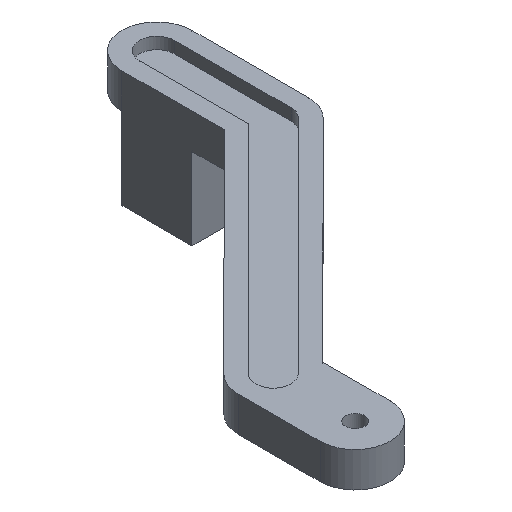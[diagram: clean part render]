
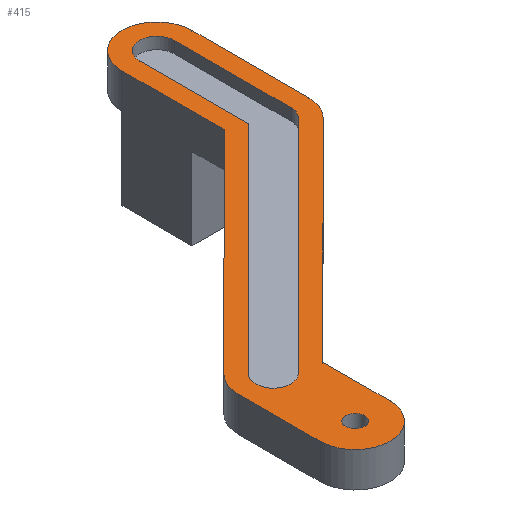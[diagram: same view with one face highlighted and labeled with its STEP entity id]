
A CAD part, isometric view. The second image highlights one B-rep face of the part: STEP entity #415.
In plain terms, the highlighted free-form (B-spline) face has degree [1, 1] with [2, 2] control points.
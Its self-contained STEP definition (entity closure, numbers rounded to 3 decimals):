
#45 = VERTEX_POINT('', #46);
#46 = CARTESIAN_POINT('', (-69., 204., -4.));
#51 = EDGE_CURVE('', #52, #45, #54, .T.);
#52 = VERTEX_POINT('', #53);
#53 = CARTESIAN_POINT('', (-69., 184., -4.));
#54 = B_SPLINE_CURVE_WITH_KNOTS('', 1, (#55, #56), .UNSPECIFIED., .F., .U., (2, 2), (0., 20.), .UNSPECIFIED.);
#55 = CARTESIAN_POINT('', (-69., 184., -4.));
#56 = CARTESIAN_POINT('', (-69., 204., -4.));
#175 = VERTEX_POINT('', #176);
#176 = CARTESIAN_POINT('', (-81., 204., -4.));
#181 = EDGE_CURVE('', #45, #175, #182, .T.);
#182 = (
   BOUNDED_CURVE ()
   B_SPLINE_CURVE (2, (#183, #184, #185, #186, #187), .UNSPECIFIED., .F., .U.)
   B_SPLINE_CURVE_WITH_KNOTS ((3, 2, 3), (0., 9.425, 18.85), .UNSPECIFIED.)
   CURVE ()
   GEOMETRIC_REPRESENTATION_ITEM ()
   RATIONAL_B_SPLINE_CURVE ((1., 0.707, 1., 0.707, 1.))
   REPRESENTATION_ITEM ('')
);
#183 = CARTESIAN_POINT('', (-69., 204., -4.));
#184 = CARTESIAN_POINT('', (-69., 210., -4.));
#185 = CARTESIAN_POINT('', (-75., 210., -4.));
#186 = CARTESIAN_POINT('', (-81., 210., -4.));
#187 = CARTESIAN_POINT('', (-81., 204., -4.));
#224 = VERTEX_POINT('', #225);
#225 = CARTESIAN_POINT('', (-81., 186.487, -4.));
#230 = EDGE_CURVE('', #224, #175, #231, .T.);
#231 = B_SPLINE_CURVE_WITH_KNOTS('', 1, (#232, #233), .UNSPECIFIED., .F., .U., (2, 2), (2.487, 20.), .UNSPECIFIED.);
#232 = CARTESIAN_POINT('', (-81., 186.487, -4.));
#233 = CARTESIAN_POINT('', (-81., 204., -4.));
#246 = VERTEX_POINT('', #247);
#247 = CARTESIAN_POINT('', (-70.759, 179.755, -4.));
#259 = EDGE_CURVE('', #246, #52, #260, .T.);
#260 = (
   BOUNDED_CURVE ()
   B_SPLINE_CURVE (2, (#261, #262, #263), .UNSPECIFIED., .F., .U.)
   B_SPLINE_CURVE_WITH_KNOTS ((3, 3), (32.984, 37.699), .UNSPECIFIED.)
   CURVE ()
   GEOMETRIC_REPRESENTATION_ITEM ()
   RATIONAL_B_SPLINE_CURVE ((0.854, 0.853, 1.))
   REPRESENTATION_ITEM ('')
);
#261 = CARTESIAN_POINT('', (-70.759, 179.755, -4.));
#262 = CARTESIAN_POINT('', (-69., 181.513, -4.));
#263 = CARTESIAN_POINT('', (-69., 184., -4.));
#288 = VERTEX_POINT('', #289);
#289 = CARTESIAN_POINT('', (-107.037, 143.513, -4.));
#302 = EDGE_CURVE('', #288, #246, #303, .T.);
#303 = B_SPLINE_CURVE_WITH_KNOTS('', 1, (#304, #305), .UNSPECIFIED., .F., .U., (2, 2), (2.487, 53.766), .UNSPECIFIED.);
#304 = CARTESIAN_POINT('', (-107.037, 143.513, -4.));
#305 = CARTESIAN_POINT('', (-70.759, 179.755, -4.));
#318 = VERTEX_POINT('', #319);
#319 = CARTESIAN_POINT('', (-119.037, 132., -4.));
#335 = VERTEX_POINT('', #336);
#336 = CARTESIAN_POINT('', (-107.037, 132., -4.));
#341 = EDGE_CURVE('', #318, #335, #342, .T.);
#342 = (
   BOUNDED_CURVE ()
   B_SPLINE_CURVE (2, (#343, #344, #345, #346, #347), .UNSPECIFIED., .F., .U.)
   B_SPLINE_CURVE_WITH_KNOTS ((3, 2, 3), (18.85, 28.274, 37.699), .UNSPECIFIED.)
   CURVE ()
   GEOMETRIC_REPRESENTATION_ITEM ()
   RATIONAL_B_SPLINE_CURVE ((1., 0.707, 1., 0.707, 1.))
   REPRESENTATION_ITEM ('')
);
#343 = CARTESIAN_POINT('', (-119.037, 132., -4.));
#344 = CARTESIAN_POINT('', (-119.037, 126., -4.));
#345 = CARTESIAN_POINT('', (-113.037, 126., -4.));
#346 = CARTESIAN_POINT('', (-107.037, 126., -4.));
#347 = CARTESIAN_POINT('', (-107.037, 132., -4.));
#372 = EDGE_CURVE('', #318, #373, #375, .T.);
#373 = VERTEX_POINT('', #374);
#374 = CARTESIAN_POINT('', (-119.037, 146., -4.));
#375 = B_SPLINE_CURVE_WITH_KNOTS('', 1, (#376, #377), .UNSPECIFIED., .F., .U., (2, 2), (0., 14.), .UNSPECIFIED.);
#376 = CARTESIAN_POINT('', (-119.037, 132., -4.));
#377 = CARTESIAN_POINT('', (-119.037, 146., -4.));
#400 = EDGE_CURVE('', #335, #288, #401, .T.);
#401 = B_SPLINE_CURVE_WITH_KNOTS('', 1, (#402, #403), .UNSPECIFIED., .F., .U., (2, 2), (0., 11.513), .UNSPECIFIED.);
#402 = CARTESIAN_POINT('', (-107.037, 132., -4.));
#403 = CARTESIAN_POINT('', (-107.037, 143.513, -4.));
#415 = ADVANCED_FACE('', (#416, #439, #455), #513, .T.);
#416 = FACE_OUTER_BOUND('', #417, .T.);
#417 = EDGE_LOOP('', (#418, #419, #420, #427, #433, #434, #435, #436, #437, #438));
#418 = ORIENTED_EDGE('', *, *, #181, .T.);
#419 = ORIENTED_EDGE('', *, *, #230, .F.);
#420 = ORIENTED_EDGE('', *, *, #421, .F.);
#421 = EDGE_CURVE('', #422, #224, #424, .T.);
#422 = VERTEX_POINT('', #423);
#423 = CARTESIAN_POINT('', (-117.278, 150.245, -4.));
#424 = B_SPLINE_CURVE_WITH_KNOTS('', 1, (#425, #426), .UNSPECIFIED., .F., .U., (2, 2), (0., 51.279), .UNSPECIFIED.);
#425 = CARTESIAN_POINT('', (-117.278, 150.245, -4.));
#426 = CARTESIAN_POINT('', (-81., 186.487, -4.));
#427 = ORIENTED_EDGE('', *, *, #428, .T.);
#428 = EDGE_CURVE('', #422, #373, #429, .T.);
#429 = (
   BOUNDED_CURVE ()
   B_SPLINE_CURVE (2, (#430, #431, #432), .UNSPECIFIED., .F., .U.)
   B_SPLINE_CURVE_WITH_KNOTS ((3, 3), (14.134, 18.85), .UNSPECIFIED.)
   CURVE ()
   GEOMETRIC_REPRESENTATION_ITEM ()
   RATIONAL_B_SPLINE_CURVE ((0.854, 0.853, 1.))
   REPRESENTATION_ITEM ('')
);
#430 = CARTESIAN_POINT('', (-117.278, 150.245, -4.));
#431 = CARTESIAN_POINT('', (-119.037, 148.487, -4.));
#432 = CARTESIAN_POINT('', (-119.037, 146., -4.));
#433 = ORIENTED_EDGE('', *, *, #372, .F.);
#434 = ORIENTED_EDGE('', *, *, #341, .T.);
#435 = ORIENTED_EDGE('', *, *, #400, .T.);
#436 = ORIENTED_EDGE('', *, *, #302, .T.);
#437 = ORIENTED_EDGE('', *, *, #259, .T.);
#438 = ORIENTED_EDGE('', *, *, #51, .T.);
#439 = FACE_BOUND('', #440, .T.);
#440 = EDGE_LOOP('', (#441));
#441 = ORIENTED_EDGE('', *, *, #442, .F.);
#442 = EDGE_CURVE('', #443, #443, #445, .T.);
#443 = VERTEX_POINT('', #444);
#444 = CARTESIAN_POINT('', (-111.437, 132., -4.));
#445 = (
   BOUNDED_CURVE ()
   B_SPLINE_CURVE (2, (#446, #447, #448, #449, #450, #451, #452, #453, #454), .UNSPECIFIED., .T., .U.)
   B_SPLINE_CURVE_WITH_KNOTS ((3, 2, 2, 2, 3), (0., 0.25, 0.5, 0.75, 1.), .UNSPECIFIED.)
   CURVE ()
   GEOMETRIC_REPRESENTATION_ITEM ()
   RATIONAL_B_SPLINE_CURVE ((1., 0.707, 1., 0.707, 1., 0.707, 1., 0.707, 1.))
   REPRESENTATION_ITEM ('')
);
#446 = CARTESIAN_POINT('', (-111.437, 132., -4.));
#447 = CARTESIAN_POINT('', (-111.437, 133.6, -4.));
#448 = CARTESIAN_POINT('', (-113.037, 133.6, -4.));
#449 = CARTESIAN_POINT('', (-114.637, 133.6, -4.));
#450 = CARTESIAN_POINT('', (-114.637, 132., -4.));
#451 = CARTESIAN_POINT('', (-114.637, 130.4, -4.));
#452 = CARTESIAN_POINT('', (-113.037, 130.4, -4.));
#453 = CARTESIAN_POINT('', (-111.437, 130.4, -4.));
#454 = CARTESIAN_POINT('', (-111.437, 132., -4.));
#455 = FACE_BOUND('', #456, .T.);
#456 = EDGE_LOOP('', (#457, #469, #476, #484, #491, #501, #508));
#457 = ORIENTED_EDGE('', *, *, #458, .F.);
#458 = EDGE_CURVE('', #459, #461, #463, .T.);
#459 = VERTEX_POINT('', #460);
#460 = CARTESIAN_POINT('', (-72., 204., -4.));
#461 = VERTEX_POINT('', #462);
#462 = CARTESIAN_POINT('', (-78., 204., -4.));
#463 = (
   BOUNDED_CURVE ()
   B_SPLINE_CURVE (2, (#464, #465, #466, #467, #468), .UNSPECIFIED., .F., .U.)
   B_SPLINE_CURVE_WITH_KNOTS ((3, 2, 3), (0., 0.25, 0.5), .UNSPECIFIED.)
   CURVE ()
   GEOMETRIC_REPRESENTATION_ITEM ()
   RATIONAL_B_SPLINE_CURVE ((1., 0.707, 1., 0.707, 1.))
   REPRESENTATION_ITEM ('')
);
#464 = CARTESIAN_POINT('', (-72., 204., -4.));
#465 = CARTESIAN_POINT('', (-72., 207., -4.));
#466 = CARTESIAN_POINT('', (-75., 207., -4.));
#467 = CARTESIAN_POINT('', (-78., 207., -4.));
#468 = CARTESIAN_POINT('', (-78., 204., -4.));
#469 = ORIENTED_EDGE('', *, *, #470, .F.);
#470 = EDGE_CURVE('', #471, #459, #473, .T.);
#471 = VERTEX_POINT('', #472);
#472 = CARTESIAN_POINT('', (-72., 184., -4.));
#473 = B_SPLINE_CURVE_WITH_KNOTS('', 1, (#474, #475), .UNSPECIFIED., .F., .U., (2, 2), (0., 1.), .UNSPECIFIED.);
#474 = CARTESIAN_POINT('', (-72., 184., -4.));
#475 = CARTESIAN_POINT('', (-72., 204., -4.));
#476 = ORIENTED_EDGE('', *, *, #477, .F.);
#477 = EDGE_CURVE('', #478, #471, #480, .T.);
#478 = VERTEX_POINT('', #479);
#479 = CARTESIAN_POINT('', (-72.88, 181.878, -4.));
#480 = (
   BOUNDED_CURVE ()
   B_SPLINE_CURVE (2, (#481, #482, #483), .UNSPECIFIED., .F., .U.)
   B_SPLINE_CURVE_WITH_KNOTS ((3, 3), (0.875, 1.), .UNSPECIFIED.)
   CURVE ()
   GEOMETRIC_REPRESENTATION_ITEM ()
   RATIONAL_B_SPLINE_CURVE ((1., 0.924, 1.))
   REPRESENTATION_ITEM ('')
);
#481 = CARTESIAN_POINT('', (-72.88, 181.878, -4.));
#482 = CARTESIAN_POINT('', (-72., 182.757, -4.));
#483 = CARTESIAN_POINT('', (-72., 184., -4.));
#484 = ORIENTED_EDGE('', *, *, #485, .F.);
#485 = EDGE_CURVE('', #486, #478, #488, .T.);
#486 = VERTEX_POINT('', #487);
#487 = CARTESIAN_POINT('', (-110.917, 143.878, -4.));
#488 = B_SPLINE_CURVE_WITH_KNOTS('', 1, (#489, #490), .UNSPECIFIED., .F., .U., (2, 2), (0., 1.), .UNSPECIFIED.);
#489 = CARTESIAN_POINT('', (-110.917, 143.878, -4.));
#490 = CARTESIAN_POINT('', (-72.88, 181.878, -4.));
#491 = ORIENTED_EDGE('', *, *, #492, .F.);
#492 = EDGE_CURVE('', #493, #486, #495, .T.);
#493 = VERTEX_POINT('', #494);
#494 = CARTESIAN_POINT('', (-115.157, 148.122, -4.));
#495 = (
   BOUNDED_CURVE ()
   B_SPLINE_CURVE (2, (#496, #497, #498, #499, #500), .UNSPECIFIED., .F., .U.)
   B_SPLINE_CURVE_WITH_KNOTS ((3, 2, 3), (0.375, 0.625, 0.875), .UNSPECIFIED.)
   CURVE ()
   GEOMETRIC_REPRESENTATION_ITEM ()
   RATIONAL_B_SPLINE_CURVE ((1., 0.707, 1., 0.707, 1.))
   REPRESENTATION_ITEM ('')
);
#496 = CARTESIAN_POINT('', (-115.157, 148.122, -4.));
#497 = CARTESIAN_POINT('', (-117.28, 146.002, -4.));
#498 = CARTESIAN_POINT('', (-115.159, 143.88, -4.));
#499 = CARTESIAN_POINT('', (-113.039, 141.757, -4.));
#500 = CARTESIAN_POINT('', (-110.917, 143.878, -4.));
#501 = ORIENTED_EDGE('', *, *, #502, .F.);
#502 = EDGE_CURVE('', #503, #493, #505, .T.);
#503 = VERTEX_POINT('', #504);
#504 = CARTESIAN_POINT('', (-78., 185.243, -4.));
#505 = B_SPLINE_CURVE_WITH_KNOTS('', 1, (#506, #507), .UNSPECIFIED., .F., .U., (2, 2), (0.023, 1.), .UNSPECIFIED.);
#506 = CARTESIAN_POINT('', (-78., 185.243, -4.));
#507 = CARTESIAN_POINT('', (-115.157, 148.122, -4.));
#508 = ORIENTED_EDGE('', *, *, #509, .F.);
#509 = EDGE_CURVE('', #461, #503, #510, .T.);
#510 = B_SPLINE_CURVE_WITH_KNOTS('', 1, (#511, #512), .UNSPECIFIED., .F., .U., (2, 2), (0., 0.938), .UNSPECIFIED.);
#511 = CARTESIAN_POINT('', (-78., 204., -4.));
#512 = CARTESIAN_POINT('', (-78., 185.243, -4.));
#513 = B_SPLINE_SURFACE_WITH_KNOTS('', 1, 1, ((#514, #515), (#516, #517)), .UNSPECIFIED., .F., .F., .U., (2, 2), (2, 2), (0., 4.857), (-2.038, 1.), .UNSPECIFIED.);
#514 = CARTESIAN_POINT('', (-65.666, 122.666, -4.));
#515 = CARTESIAN_POINT('', (-122.371, 122.666, -4.));
#516 = CARTESIAN_POINT('', (-65.666, 213.334, -4.));
#517 = CARTESIAN_POINT('', (-122.371, 213.334, -4.));
